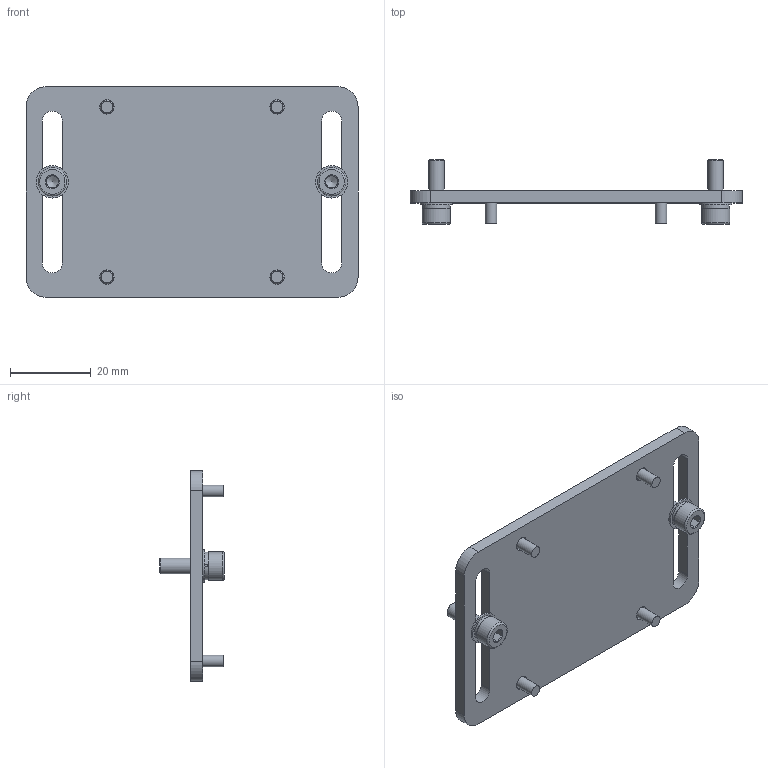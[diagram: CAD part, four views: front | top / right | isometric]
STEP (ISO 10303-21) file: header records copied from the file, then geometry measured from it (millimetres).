
FILE_DESCRIPTION(/* description */ (''),/* implementation_level */ '2;1');
FILE_NAME(/* name */ 'ZJ-SZ.stp',/* time_stamp */ '2024-08-08T14:14:30+08:00',/* author */ (''),/* organization */ (''),/* preprocessor_version */ 'ST-DEVELOPER v14',/* originating_system */ 'SIEMENS PLM Software NX 8.0',/* authorisation */ '');
FILE_SCHEMA (('AUTOMOTIVE_DESIGN { 1 0 10303 214 3 1 1 1 }'));
Length unit declared in the file: millimetre
Products named in the file (5): GB-T70.1-2000,M4x12; GB-T848-2002,M4; GB859-87,4; GB-T819_1_H-2000,M3x8; ZJ-SZ
Assembly tree (10 placements, depth 2):
  ZJ-SZ
    GB-T819_1_H-2000,M3x8  x4
    GB859-87,4  x2
    GB-T848-2002,M4  x2
    GB-T70.1-2000,M4x12  x2
Bounding box: 82 x 16 x 52 mm (x, y, z)
Volume: 12244.6 mm3; surface area: 10538.3 mm2
Topology: 11 solids, 11 shells, 208 faces, 480 edges, 300 vertices
Faces by surface type: plane 144, cylinder 32, cone 24, torus 8
Full cylindrical faces by diameter (mm): 2.874 x4, 3.5 x4, 3.838 x2, 4.3 x2, 5.5 x4, 7 x2, 8 x2
Entity records: 2619 total; most frequent: DIRECTION 444, CARTESIAN_POINT 442, ORIENTED_EDGE 368, EDGE_CURVE 184, AXIS2_PLACEMENT_3D 165, VERTEX_POINT 127, EDGE_LOOP 126, LINE 114
